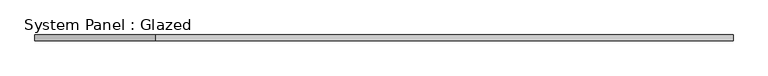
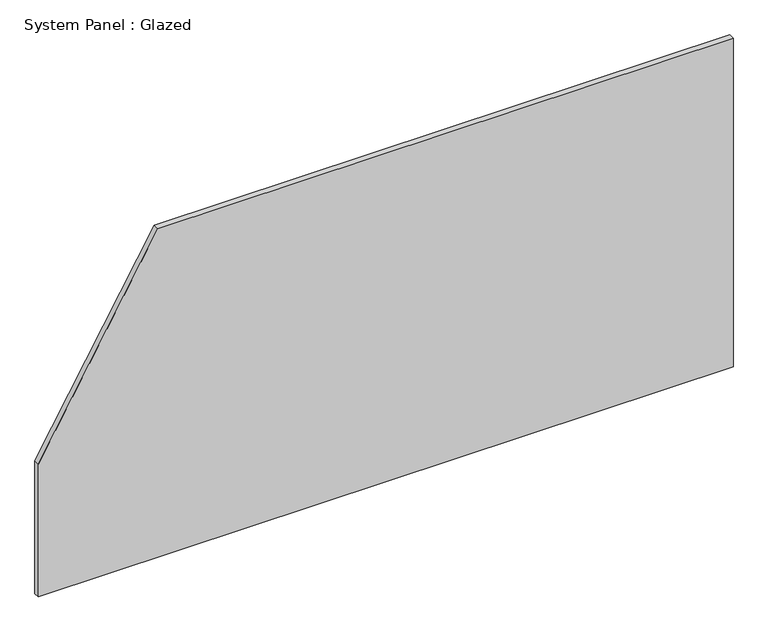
"""IFC4 building model written with IfcOpenShell, lengths in millimetres: plate geometry, System Panel : Glazed."""

from ifc_helpers import new_model, si_unit, frame, origin, place, context, project, spatial, polyline, outline, extrude, source, transform, mapped, element, save


def system_panel_glazed_bc645063(model_context):
    return source(origin(), model_context, "Body", "SweptSolid", [
        extrude(outline(polyline([(0.0, -1524.0), (0.0, 1524.0), (1524.0, 1524.0), (1524.0, -999.4132131), (615.389032, -1524.0), (0.0, -1524.0)])), frame((0.0, 19.05, 0.0), z_axis=(0.0, 1.0, 0.0), x_axis=(0.0, 0.0, 1.0)), (0.0, 0.0, 1.0), 25.4),
    ])


if __name__ == "__main__":
    model = new_model("IFC4")
    model_context = context("Model", 3, world=origin())
    ifc_project = project(units=[si_unit("LENGTHUNIT", "METRE", prefix="MILLI")], contexts=[model_context])
    site = spatial("IfcSite", under=ifc_project)
    building = spatial("IfcBuilding", under=site)
    placement = place(None, origin())
    system_panel_glazed_shape = system_panel_glazed_bc645063(model_context)
    element("IfcPlate", 1, ObjectType="System Panel : Glazed", at=placement, inside=building, context=model_context, shape_type="MappedRepresentation", body=[
        mapped(system_panel_glazed_shape, transform((0.0, 0.0, 0.0), x_axis=(1.0, 0.0, 0.0), y_axis=(0.0, 1.0, 0.0), z_axis=(0.0, 0.0, 1.0))),
    ])
    save(model, "model.ifc")
